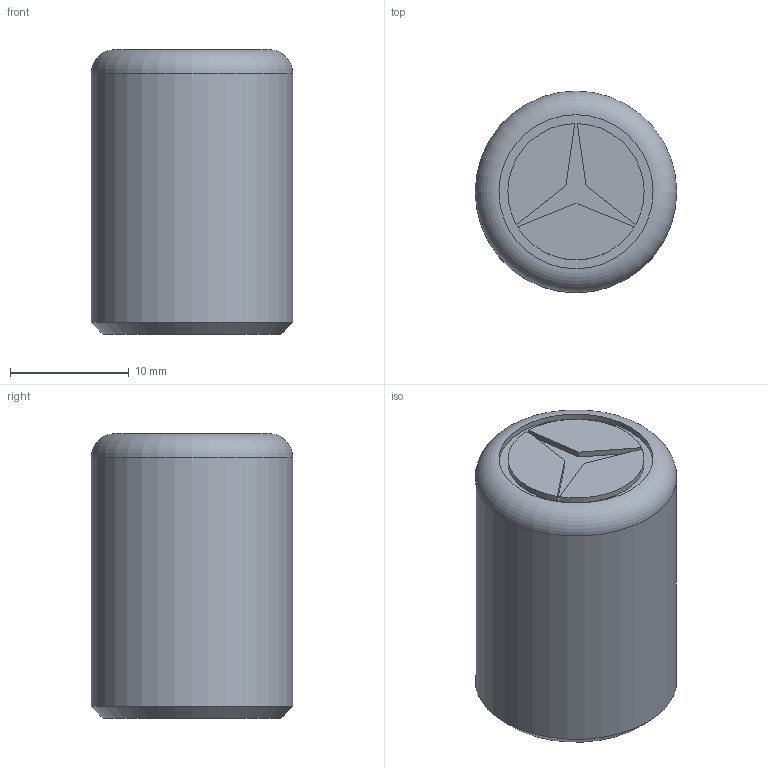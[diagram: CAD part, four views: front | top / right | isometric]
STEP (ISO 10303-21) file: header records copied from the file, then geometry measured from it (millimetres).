
FILE_DESCRIPTION((''),'2;1');
FILE_NAME('C:\USERS\BONDE\DESKTOP\MERCEDES HANDBRAKE.STP','2020-12-05T14:15:20',(''),(''),'STEP Write','Mastercam X4 ... CNC Software, Inc.','');
FILE_SCHEMA(('AUTOMOTIVE_DESIGN'));
Length unit declared in the file: millimetre
Products named in the file (1): None
Bounding box: 17 x 17 x 24 mm (x, y, z)
Volume: 2815.6 mm3; surface area: 4037.8 mm2
Topology: 1 solids, 5 shells, 56 faces, 123 edges, 81 vertices
Faces by surface type: plane 32, cylinder 22, cone 1, torus 1
Full cylindrical faces by diameter (mm): 4 x1, 13 x1, 17 x1
Entity records: 1523 total; most frequent: DIRECTION 281, CARTESIAN_POINT 253, ORIENTED_EDGE 234, EDGE_CURVE 117, AXIS2_PLACEMENT_3D 108, VERTEX_POINT 80, EDGE_LOOP 65, VECTOR 65
